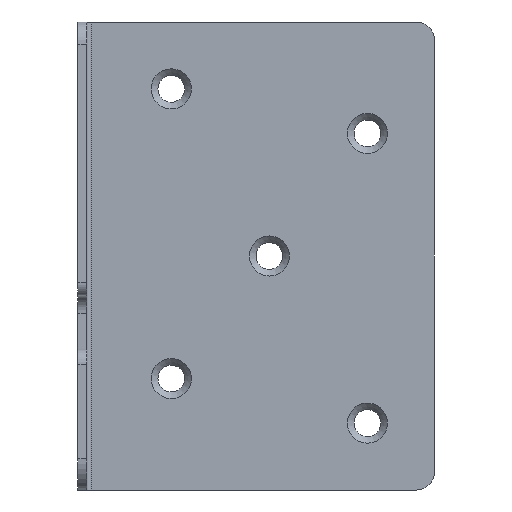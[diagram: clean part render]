
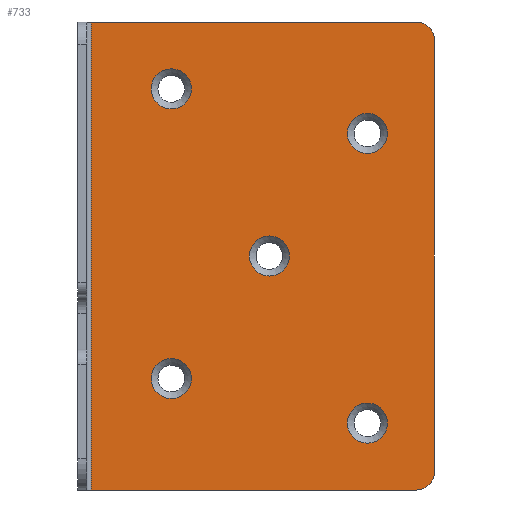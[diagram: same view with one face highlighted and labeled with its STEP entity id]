
A CAD part, front view. The second image highlights one B-rep face of the part: STEP entity #733.
In plain terms, the highlighted planar face has unit normal (0, -1, 0).
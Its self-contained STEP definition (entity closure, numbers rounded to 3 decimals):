
#25=FACE_BOUND('',#97,.T.);
#26=FACE_BOUND('',#98,.T.);
#27=FACE_BOUND('',#99,.T.);
#28=FACE_BOUND('',#100,.T.);
#29=FACE_BOUND('',#101,.T.);
#33=PLANE('',#908);
#51=FACE_OUTER_BOUND('',#96,.T.);
#96=EDGE_LOOP('',(#526,#527,#528,#529,#530,#531));
#97=EDGE_LOOP('',(#532));
#98=EDGE_LOOP('',(#533));
#99=EDGE_LOOP('',(#534));
#100=EDGE_LOOP('',(#535));
#101=EDGE_LOOP('',(#536));
#138=LINE('',#1219,#204);
#151=LINE('',#1266,#217);
#152=LINE('',#1268,#218);
#153=LINE('',#1269,#219);
#204=VECTOR('',#985,10.);
#217=VECTOR('',#1026,10.);
#218=VECTOR('',#1029,10.);
#219=VECTOR('',#1030,10.);
#269=CIRCLE('',#892,4.);
#278=CIRCLE('',#904,4.);
#281=CIRCLE('',#909,4.5);
#282=CIRCLE('',#910,4.5);
#283=CIRCLE('',#911,4.5);
#284=CIRCLE('',#912,4.5);
#285=CIRCLE('',#913,4.5);
#313=VERTEX_POINT('',#1212);
#314=VERTEX_POINT('',#1214);
#315=VERTEX_POINT('',#1218);
#329=VERTEX_POINT('',#1250);
#330=VERTEX_POINT('',#1252);
#335=VERTEX_POINT('',#1264);
#336=VERTEX_POINT('',#1270);
#337=VERTEX_POINT('',#1272);
#338=VERTEX_POINT('',#1274);
#339=VERTEX_POINT('',#1276);
#340=VERTEX_POINT('',#1278);
#384=EDGE_CURVE('',#314,#313,#269,.T.);
#386=EDGE_CURVE('',#315,#314,#138,.T.);
#403=EDGE_CURVE('',#330,#329,#278,.T.);
#410=EDGE_CURVE('',#329,#335,#151,.T.);
#411=EDGE_CURVE('',#313,#330,#152,.T.);
#412=EDGE_CURVE('',#335,#315,#153,.T.);
#413=EDGE_CURVE('',#336,#336,#281,.T.);
#414=EDGE_CURVE('',#337,#337,#282,.T.);
#415=EDGE_CURVE('',#338,#338,#283,.T.);
#416=EDGE_CURVE('',#339,#339,#284,.T.);
#417=EDGE_CURVE('',#340,#340,#285,.T.);
#526=ORIENTED_EDGE('',*,*,#384,.T.);
#527=ORIENTED_EDGE('',*,*,#411,.T.);
#528=ORIENTED_EDGE('',*,*,#403,.T.);
#529=ORIENTED_EDGE('',*,*,#410,.T.);
#530=ORIENTED_EDGE('',*,*,#412,.T.);
#531=ORIENTED_EDGE('',*,*,#386,.T.);
#532=ORIENTED_EDGE('',*,*,#413,.F.);
#533=ORIENTED_EDGE('',*,*,#414,.F.);
#534=ORIENTED_EDGE('',*,*,#415,.F.);
#535=ORIENTED_EDGE('',*,*,#416,.F.);
#536=ORIENTED_EDGE('',*,*,#417,.F.);
#733=ADVANCED_FACE('',(#51,#25,#26,#27,#28,#29),#33,.T.);
#892=AXIS2_PLACEMENT_3D('',#1215,#980,#981);
#904=AXIS2_PLACEMENT_3D('',#1253,#1014,#1015);
#908=AXIS2_PLACEMENT_3D('',#1267,#1027,#1028);
#909=AXIS2_PLACEMENT_3D('',#1271,#1031,#1032);
#910=AXIS2_PLACEMENT_3D('',#1273,#1033,#1034);
#911=AXIS2_PLACEMENT_3D('',#1275,#1035,#1036);
#912=AXIS2_PLACEMENT_3D('',#1277,#1037,#1038);
#913=AXIS2_PLACEMENT_3D('',#1279,#1039,#1040);
#980=DIRECTION('center_axis',(0.,-1.,0.));
#981=DIRECTION('ref_axis',(0.707,0.,-0.707));
#985=DIRECTION('',(1.,0.,0.));
#1014=DIRECTION('center_axis',(0.,-1.,0.));
#1015=DIRECTION('ref_axis',(0.707,0.,0.707));
#1026=DIRECTION('',(-1.,0.,0.));
#1027=DIRECTION('center_axis',(0.,-1.,0.));
#1028=DIRECTION('ref_axis',(-1.,0.,0.));
#1029=DIRECTION('',(0.,0.,1.));
#1030=DIRECTION('',(0.,0.,-1.));
#1031=DIRECTION('center_axis',(0.,-1.,0.));
#1032=DIRECTION('ref_axis',(0.,0.,-1.));
#1033=DIRECTION('center_axis',(0.,-1.,0.));
#1034=DIRECTION('ref_axis',(0.,0.,-1.));
#1035=DIRECTION('center_axis',(0.,-1.,0.));
#1036=DIRECTION('ref_axis',(0.,0.,-1.));
#1037=DIRECTION('center_axis',(0.,-1.,0.));
#1038=DIRECTION('ref_axis',(0.,0.,-1.));
#1039=DIRECTION('center_axis',(0.,-1.,0.));
#1040=DIRECTION('ref_axis',(0.,0.,-1.));
#1212=CARTESIAN_POINT('',(80.,0.,4.));
#1214=CARTESIAN_POINT('',(76.,0.,0.));
#1215=CARTESIAN_POINT('Origin',(76.,0.,4.));
#1218=CARTESIAN_POINT('',(3.,0.,0.));
#1219=CARTESIAN_POINT('',(0.,0.,0.));
#1250=CARTESIAN_POINT('',(76.,0.,105.));
#1252=CARTESIAN_POINT('',(80.,0.,101.));
#1253=CARTESIAN_POINT('Origin',(76.,0.,101.));
#1264=CARTESIAN_POINT('',(3.,0.,105.));
#1266=CARTESIAN_POINT('',(80.,0.,105.));
#1267=CARTESIAN_POINT('Origin',(40.,0.,52.5));
#1268=CARTESIAN_POINT('',(80.,0.,0.));
#1269=CARTESIAN_POINT('',(3.,0.,52.5));
#1270=CARTESIAN_POINT('',(65.,0.,84.5));
#1271=CARTESIAN_POINT('Origin',(65.,0.,80.));
#1272=CARTESIAN_POINT('',(65.,0.,19.5));
#1273=CARTESIAN_POINT('Origin',(65.,0.,15.));
#1274=CARTESIAN_POINT('',(21.,0.,94.5));
#1275=CARTESIAN_POINT('Origin',(21.,0.,90.));
#1276=CARTESIAN_POINT('',(43.,0.,57.));
#1277=CARTESIAN_POINT('Origin',(43.,0.,52.5));
#1278=CARTESIAN_POINT('',(21.,0.,29.5));
#1279=CARTESIAN_POINT('Origin',(21.,0.,25.));
